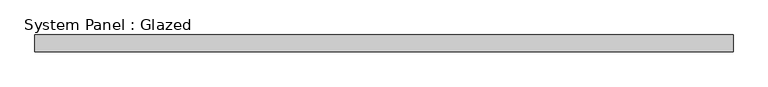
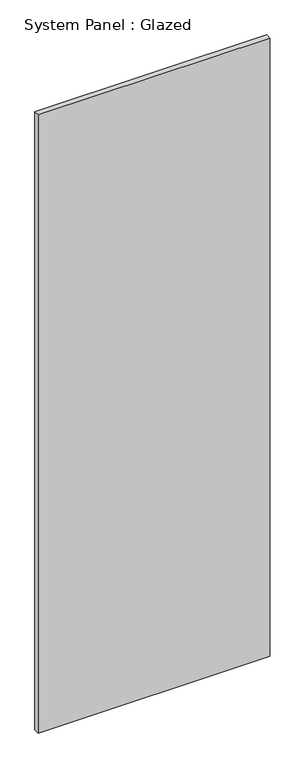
"""IFC4 building model written with IfcOpenShell, lengths in millimetres: plate geometry, System Panel : Glazed."""

from ifc_helpers import new_model, si_unit, origin, origin_with_axes, place, context, project, spatial, polyline, outline, extrude, source, transform, mapped, element, save


def system_panel_glazed_cbbd3026(model_context):
    return source(origin(), model_context, "Body", "SweptSolid", [
        extrude(outline(polyline([(518.3333332, 24.5), (-518.3333332, 24.5), (-518.3333332, 49.5), (518.3333332, 49.5), (518.3333332, 24.5)])), origin_with_axes(), (0.0, 0.0, 1.0), 2925.0),
    ])


if __name__ == "__main__":
    model = new_model("IFC4")
    model_context = context("Model", 3, world=origin())
    ifc_project = project(units=[si_unit("LENGTHUNIT", "METRE", prefix="MILLI")], contexts=[model_context])
    site = spatial("IfcSite", under=ifc_project)
    building = spatial("IfcBuilding", under=site)
    placement = place(None, origin())
    system_panel_glazed_shape = system_panel_glazed_cbbd3026(model_context)
    element("IfcPlate", 1, ObjectType="System Panel : Glazed", at=placement, inside=building, context=model_context, shape_type="MappedRepresentation", body=[
        mapped(system_panel_glazed_shape, transform((0.0, 0.0, 0.0), x_axis=(1.0, 0.0, 0.0), y_axis=(0.0, 1.0, 0.0), z_axis=(0.0, 0.0, 1.0))),
    ])
    save(model, "model.ifc")
